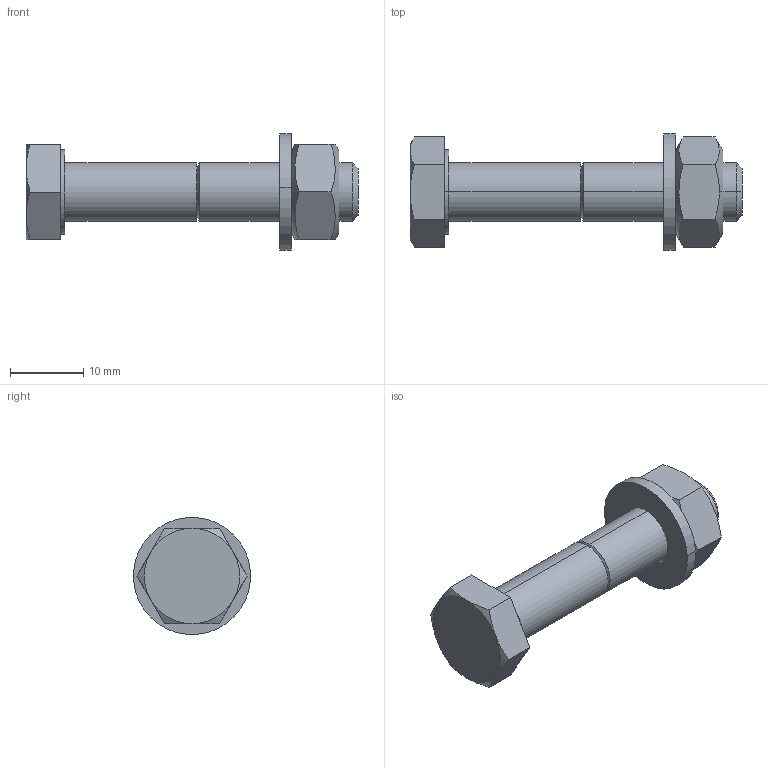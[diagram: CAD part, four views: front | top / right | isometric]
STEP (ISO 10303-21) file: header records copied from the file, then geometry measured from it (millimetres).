
FILE_DESCRIPTION((''),'2;1');
FILE_NAME('W:\212-241.stp','2004-01-08T14:00:06',('KAA'),(''),'Autodesk Inventor (R) 6.0','Autodesk Inventor (R) 6.0','');
FILE_SCHEMA(('CONFIG_CONTROL_DESIGN'));
Length unit declared in the file: millimetre
Products named in the file (1): 212-241
Bounding box: 45.3 x 15.95 x 15.95 mm (x, y, z)
Volume: 3573.4 mm3; surface area: 2134.5 mm2
Topology: 1 solids, 1 shells, 43 faces, 98 edges, 64 vertices
Faces by surface type: plane 21, cylinder 12, cone 10
Entity records: 1287 total; most frequent: CARTESIAN_POINT 254, DIRECTION 198, ORIENTED_EDGE 196, EDGE_CURVE 98, AXIS2_PLACEMENT_3D 80, VERTEX_POINT 64, EDGE_LOOP 50, FACE_OUTER_BOUND 43
